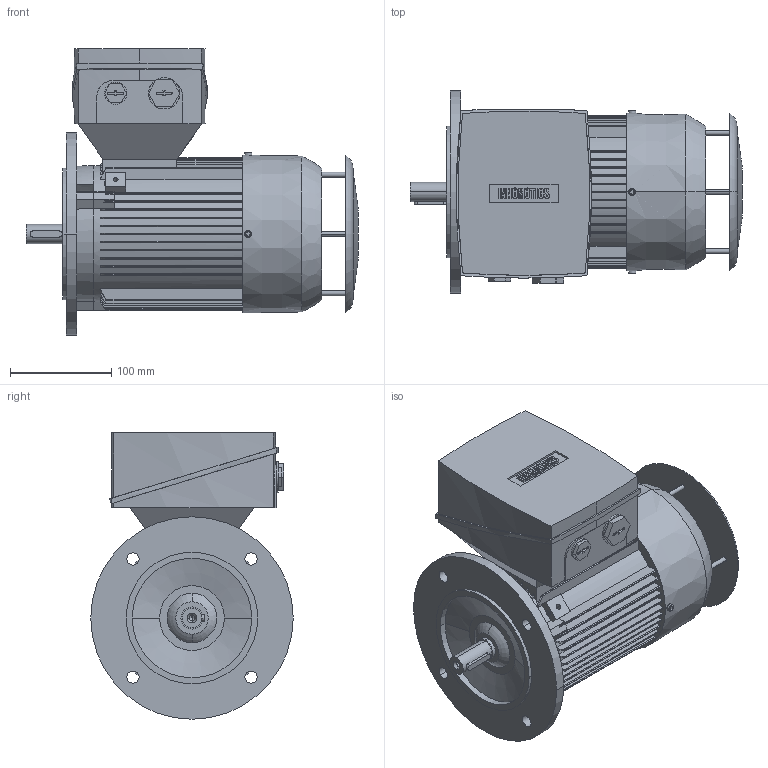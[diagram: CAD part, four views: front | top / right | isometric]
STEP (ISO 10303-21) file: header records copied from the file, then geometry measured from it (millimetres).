
FILE_DESCRIPTION(('STEP AP214'),'1');
FILE_NAME('cctmp_3235C8B5-E29A-4359-A6FB-A36DCBC64310_2026_04_15_11_15_57_0090_39768..stp','2026-04-15T09:15:57',('KiM GmbH'),('CADClick - www.CADClick.com'),'Spatial InterOp 3D',' ','unknown authorization');
FILE_SCHEMA(('AUTOMOTIVE_DESIGN'));
Length unit declared in the file: millimetre
Products named in the file (1): 2026_04_15_11_15_57_0090
Bounding box: 328 x 200 x 283 mm (x, y, z)
Volume: 6185785.5 mm3; surface area: 409142 mm2
Topology: 1 solids, 1 shells, 710 faces, 1975 edges, 1299 vertices
Faces by surface type: plane 441, cylinder 195, torus 54, cone 20
Entity records: 30205 total; most frequent: CARTESIAN_POINT 6113, ORIENTED_EDGE 3922, DIRECTION 3762, EDGE_CURVE 1961, VERTEX_POINT 1299, LINE 1276, VECTOR 1276, AXIS2_PLACEMENT_3D 1243
